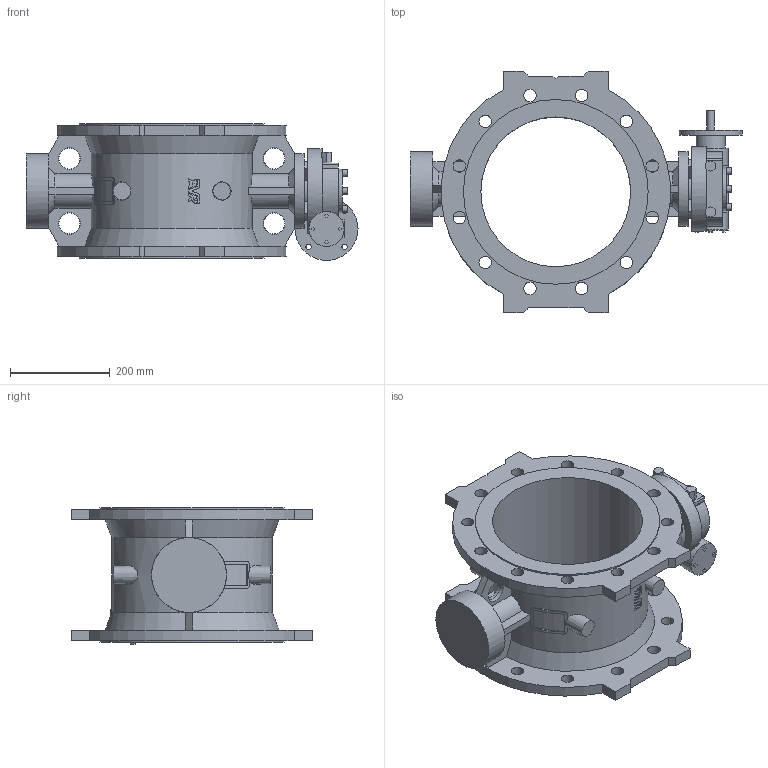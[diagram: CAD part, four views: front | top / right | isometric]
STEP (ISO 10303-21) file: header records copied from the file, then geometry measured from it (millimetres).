
FILE_DESCRIPTION (( 'STEP AP203' ), '1' );
FILE_NAME ('O_756_102_DN300_0XX_AA0_step.step', '2016-03-09T10:47:51', ( 'Windows User' ), ( 'AVK' ), 'SwSTEP 2.0', 'SolidWorks 2012', '' );
FILE_SCHEMA (( 'CONFIG_CONTROL_DESIGN' ));
Length unit declared in the file: millimetre
Products named in the file (1): O_756_102_DN300_0XX_AA0_step
Bounding box: 665 x 484 x 274 mm (x, y, z)
Volume: 11473777.8 mm3; surface area: 1240687.9 mm2
Topology: 1 solids, 1 shells, 428 faces, 1180 edges, 784 vertices
Faces by surface type: plane 235, bspline 86, cylinder 83, cone 24
Full cylindrical faces by diameter (mm): 10.5 x4, 13 x4, 15 x1, 25 x24, 58 x1, 70 x2, 87 x1, 126 x1, 150 x2, 170 x1, 300 x1, 370 x2
Entity records: 18705 total; most frequent: CARTESIAN_POINT 8567, ORIENTED_EDGE 2214, DIRECTION 1706, EDGE_CURVE 1107, VERTEX_POINT 767, LINE 594, VECTOR 594, EDGE_LOOP 580
